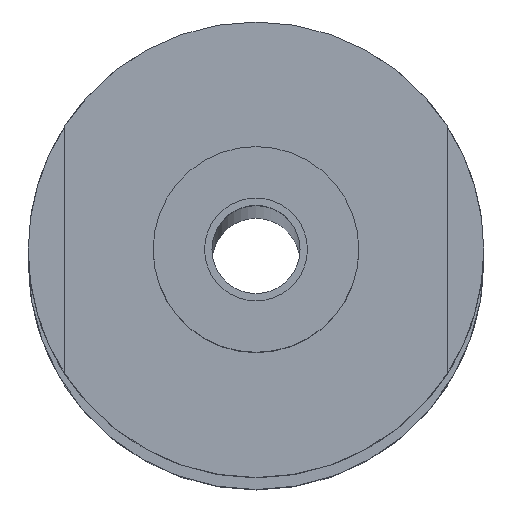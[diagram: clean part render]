
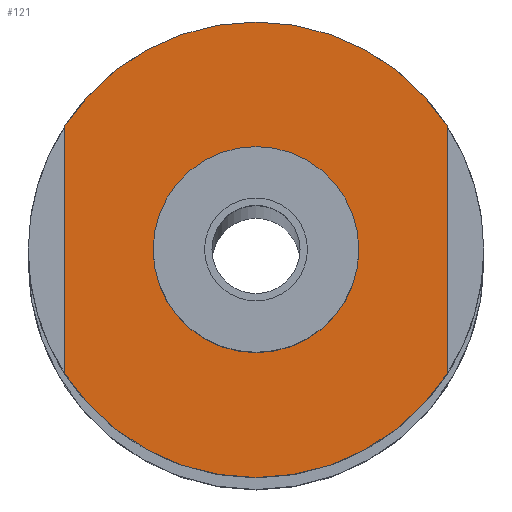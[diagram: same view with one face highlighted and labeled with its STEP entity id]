
A CAD part, top view. The second image highlights one B-rep face of the part: STEP entity #121.
In plain terms, the highlighted planar face has unit normal (0, 0, 1).
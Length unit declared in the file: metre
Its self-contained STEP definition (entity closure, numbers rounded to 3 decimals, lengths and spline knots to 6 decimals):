
#121=ADVANCED_FACE('37:1511',(#238,#239),#240,.T.);
#238=FACE_OUTER_BOUND('',#364,.T.);
#239=FACE_BOUND('',#365,.T.);
#240=PLANE('',#366);
#364=EDGE_LOOP('',(#596,#597,#598,#599,#600,#601));
#365=EDGE_LOOP('',(#602,#603));
#366=AXIS2_PLACEMENT_3D('',#604,#605,#606);
#596=ORIENTED_EDGE('',*,*,#761,.F.);
#597=ORIENTED_EDGE('',*,*,#760,.F.);
#598=ORIENTED_EDGE('',*,*,#756,.F.);
#599=ORIENTED_EDGE('',*,*,#688,.F.);
#600=ORIENTED_EDGE('',*,*,#687,.F.);
#601=ORIENTED_EDGE('',*,*,#751,.T.);
#602=ORIENTED_EDGE('',*,*,#749,.F.);
#603=ORIENTED_EDGE('',*,*,#693,.F.);
#604=CARTESIAN_POINT('',(0.0,0.0,2.845));
#605=DIRECTION('',(0.0,0.0,1.0));
#606=DIRECTION('',(1.0,0.0,0.0));
#687=EDGE_CURVE('37:1561',#812,#814,#815,.F.);
#688=EDGE_CURVE('37:1552',#814,#816,#817,.F.);
#693=EDGE_CURVE('',#822,#825,#826,.T.);
#749=EDGE_CURVE('37:1539',#825,#822,#907,.T.);
#751=EDGE_CURVE('37:3142',#812,#909,#910,.T.);
#756=EDGE_CURVE('37:2641',#816,#917,#918,.F.);
#760=EDGE_CURVE('37:1558',#917,#922,#923,.F.);
#761=EDGE_CURVE('37:1549',#922,#909,#924,.F.);
#812=VERTEX_POINT('',#1001);
#814=VERTEX_POINT('',#1004);
#815=CIRCLE('',#1005,0.0155);
#816=VERTEX_POINT('',#1006);
#817=CIRCLE('',#1007,0.0155);
#822=VERTEX_POINT('',#1013);
#825=VERTEX_POINT('',#1017);
#826=CIRCLE('',#1018,0.007);
#907=CIRCLE('',#1116,0.007);
#909=VERTEX_POINT('',#1118);
#910=LINE('',#1119,#1120);
#917=VERTEX_POINT('',#1130);
#918=LINE('',#1131,#1132);
#922=VERTEX_POINT('',#1137);
#923=CIRCLE('',#1138,0.0155);
#924=CIRCLE('',#1139,0.0155);
#1001=CARTESIAN_POINT('',(-0.013092,0.008536,2.845));
#1004=CARTESIAN_POINT('',(-0.000092,0.015595,2.845));
#1005=AXIS2_PLACEMENT_3D('',#1221,#1222,#1223);
#1006=CARTESIAN_POINT('',(0.012908,0.008536,2.845));
#1007=AXIS2_PLACEMENT_3D('',#1224,#1225,#1226);
#1013=CARTESIAN_POINT('',(0.006908,0.000095,2.845));
#1017=CARTESIAN_POINT('',(-0.007092,0.000095,2.845));
#1018=AXIS2_PLACEMENT_3D('',#1232,#1233,#1234);
#1116=AXIS2_PLACEMENT_3D('',#1318,#1319,#1320);
#1118=CARTESIAN_POINT('',(-0.013092,-0.008346,2.845));
#1119=CARTESIAN_POINT('',(-0.013092,0.000048,2.845));
#1120=VECTOR('',#1321,1.0);
#1130=CARTESIAN_POINT('',(0.012908,-0.008346,2.845));
#1131=CARTESIAN_POINT('',(0.012908,0.000048,2.845));
#1132=VECTOR('',#1325,1.0);
#1137=CARTESIAN_POINT('',(-0.000092,-0.015405,2.845));
#1138=AXIS2_PLACEMENT_3D('',#1330,#1331,#1332);
#1139=AXIS2_PLACEMENT_3D('',#1333,#1334,#1335);
#1221=CARTESIAN_POINT('',(-0.000092,0.000095,2.845));
#1222=DIRECTION('',(0.0,0.0,1.0));
#1223=DIRECTION('',(1.0,0.0,0.0));
#1224=CARTESIAN_POINT('',(-0.000092,0.000095,2.845));
#1225=DIRECTION('',(0.0,0.0,1.0));
#1226=DIRECTION('',(1.0,0.0,0.0));
#1232=CARTESIAN_POINT('',(-0.000092,0.000095,2.845));
#1233=DIRECTION('',(0.0,0.0,1.0));
#1234=DIRECTION('',(1.0,0.0,-0.0));
#1318=CARTESIAN_POINT('',(-0.000092,0.000095,2.845));
#1319=DIRECTION('',(0.0,0.0,1.0));
#1320=DIRECTION('',(1.0,0.0,-0.0));
#1321=DIRECTION('',(0.,-1.0,0.0));
#1325=DIRECTION('',(0.,1.0,0.0));
#1330=CARTESIAN_POINT('',(-0.000092,0.000095,2.845));
#1331=DIRECTION('',(0.0,0.0,1.0));
#1332=DIRECTION('',(1.0,0.0,0.0));
#1333=CARTESIAN_POINT('',(-0.000092,0.000095,2.845));
#1334=DIRECTION('',(0.0,0.0,1.0));
#1335=DIRECTION('',(1.0,0.0,0.0));
